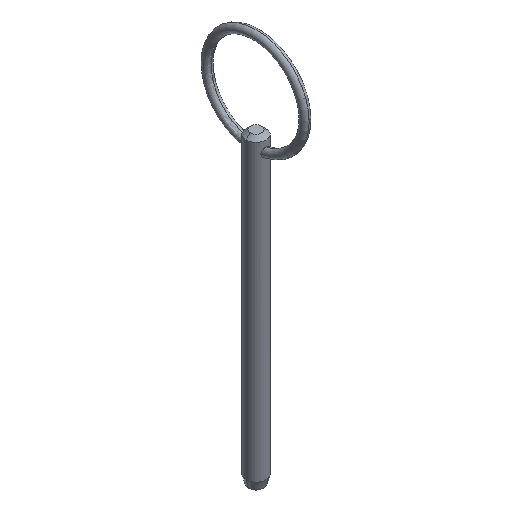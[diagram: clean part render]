
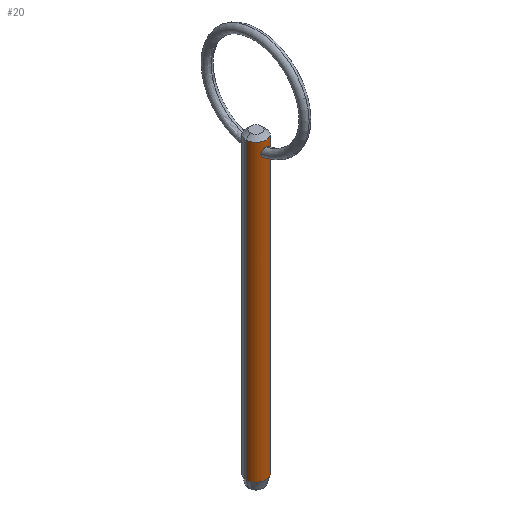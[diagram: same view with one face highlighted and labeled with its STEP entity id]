
A CAD part, isometric view. The second image highlights one B-rep face of the part: STEP entity #20.
In plain terms, the highlighted cylindrical face has radius 2.38 mm (diameter 4.76 mm), a partial arc.
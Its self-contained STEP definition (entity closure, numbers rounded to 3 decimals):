
#20 = ADVANCED_FACE ( 'NONE', ( #467, #393 ), #431, .T. ) ;
#24 = VERTEX_POINT ( 'NONE', #354 ) ;
#27 = CARTESIAN_POINT ( 'NONE',  ( 0.811, -2.24, 64.106 ) ) ;
#31 = VERTEX_POINT ( 'NONE', #111 ) ;
#35 = CARTESIAN_POINT ( 'NONE',  ( 0.996, -2.162, 64.864 ) ) ;
#39 = CARTESIAN_POINT ( 'NONE',  ( 0., 0., 67.24 ) ) ;
#40 = CARTESIAN_POINT ( 'NONE',  ( 2.38, 0., 67.24 ) ) ;
#41 = EDGE_CURVE ( 'NONE', #436, #239, #203, .T. ) ;
#46 = ORIENTED_EDGE ( 'NONE', *, *, #324, .T. ) ;
#47 = ORIENTED_EDGE ( 'NONE', *, *, #50, .T. ) ;
#50 = EDGE_CURVE ( 'NONE', #31, #454, #276, .T. ) ;
#54 = CARTESIAN_POINT ( 'NONE',  ( -2.38, 0., -3.08 ) ) ;
#59 = ORIENTED_EDGE ( 'NONE', *, *, #179, .T. ) ;
#64 = DIRECTION ( 'NONE',  ( -1., 0., 0. ) ) ;
#66 = CIRCLE ( 'NONE', #150, 2.38 ) ;
#73 = DIRECTION ( 'NONE',  ( 0., 0., -1. ) ) ;
#78 = CARTESIAN_POINT ( 'NONE',  ( -0.133, -2.38, 63.725 ) ) ;
#80 = CARTESIAN_POINT ( 'NONE',  ( -0.505, -2.329, 65.626 ) ) ;
#108 = CARTESIAN_POINT ( 'NONE',  ( 0.268, -2.368, 65.737 ) ) ;
#111 = CARTESIAN_POINT ( 'NONE',  ( 0., -2.38, 65.768 ) ) ;
#113 = CARTESIAN_POINT ( 'NONE',  ( 0.865, -2.218, 65.24 ) ) ;
#117 = CARTESIAN_POINT ( 'NONE',  ( -1.004, -2.158, 64.599 ) ) ;
#121 = DIRECTION ( 'NONE',  ( 0., 0., -1. ) ) ;
#122 = AXIS2_PLACEMENT_3D ( 'NONE', #149, #462, #64 ) ;
#138 = CARTESIAN_POINT ( 'NONE',  ( 0.268, -2.368, 63.751 ) ) ;
#145 = CARTESIAN_POINT ( 'NONE',  ( 0.508, -2.328, 65.624 ) ) ;
#148 = CARTESIAN_POINT ( 'NONE',  ( 2.38, 0., -3.08 ) ) ;
#149 = CARTESIAN_POINT ( 'NONE',  ( 0., 0., -3.08 ) ) ;
#150 = AXIS2_PLACEMENT_3D ( 'NONE', #39, #73, #330 ) ;
#162 = CARTESIAN_POINT ( 'NONE',  ( 0., -2.38, 65.768 ) ) ;
#178 = CARTESIAN_POINT ( 'NONE',  ( 0., -2.38, 63.725 ) ) ;
#179 = EDGE_CURVE ( 'NONE', #264, #24, #66, .T. ) ;
#189 = CARTESIAN_POINT ( 'NONE',  ( -0.267, -2.368, 65.737 ) ) ;
#190 = DIRECTION ( 'NONE',  ( 0., 0., -1. ) ) ;
#193 = CARTESIAN_POINT ( 'NONE',  ( -0.885, -2.21, 64.217 ) ) ;
#203 = CIRCLE ( 'NONE', #122, 2.38 ) ;
#213 = CARTESIAN_POINT ( 'NONE',  ( 0.615, -2.301, 65.544 ) ) ;
#217 = CARTESIAN_POINT ( 'NONE',  ( 0.966, -2.176, 64.997 ) ) ;
#224 = CARTESIAN_POINT ( 'NONE',  ( -0.268, -2.368, 63.751 ) ) ;
#226 = EDGE_LOOP ( 'NONE', ( #47, #304 ) ) ;
#236 = DIRECTION ( 'NONE',  ( 0., 0., -1. ) ) ;
#239 = VERTEX_POINT ( 'NONE', #148 ) ;
#251 = ORIENTED_EDGE ( 'NONE', *, *, #331, .F. ) ;
#258 = CARTESIAN_POINT ( 'NONE',  ( 2.38, 0., 63.5 ) ) ;
#259 = CARTESIAN_POINT ( 'NONE',  ( -2.38, 0., 63.5 ) ) ;
#261 = CARTESIAN_POINT ( 'NONE',  ( -0.88, -2.219, 65.26 ) ) ;
#264 = VERTEX_POINT ( 'NONE', #40 ) ;
#274 = LINE ( 'NONE', #258, #327 ) ;
#276 = B_SPLINE_CURVE_WITH_KNOTS ( 'NONE', 3,
 ( #459, #322, #108, #145, #213, #325, #113, #217, #35, #357, #282, #392, #27, #426, #351, #138, #388, #178 ),
 .UNSPECIFIED., .F., .F.,
 ( 4, 2, 2, 2, 2, 2, 2, 2, 4 ),
 ( 0.003, 0.003, 0.003, 0.004, 0.004, 0.005, 0.005, 0.005, 0.006 ),
 .UNSPECIFIED. ) ;
#282 = CARTESIAN_POINT ( 'NONE',  ( 0.981, -2.169, 64.464 ) ) ;
#295 = CARTESIAN_POINT ( 'NONE',  ( -0.811, -2.24, 64.106 ) ) ;
#304 = ORIENTED_EDGE ( 'NONE', *, *, #414, .T. ) ;
#313 = DIRECTION ( 'NONE',  ( -1., 0., 0. ) ) ;
#322 = CARTESIAN_POINT ( 'NONE',  ( 0.134, -2.38, 65.768 ) ) ;
#324 = EDGE_CURVE ( 'NONE', #24, #436, #364, .T. ) ;
#325 = CARTESIAN_POINT ( 'NONE',  ( 0.793, -2.246, 65.352 ) ) ;
#327 = VECTOR ( 'NONE', #190, 1000. ) ;
#330 = DIRECTION ( 'NONE',  ( 1., 0., 0. ) ) ;
#331 = EDGE_CURVE ( 'NONE', #264, #239, #274, .T. ) ;
#335 = CARTESIAN_POINT ( 'NONE',  ( -0.626, -2.298, 63.922 ) ) ;
#337 = CARTESIAN_POINT ( 'NONE',  ( -0.134, -2.38, 65.768 ) ) ;
#346 = AXIS2_PLACEMENT_3D ( 'NONE', #387, #236, #313 ) ;
#351 = CARTESIAN_POINT ( 'NONE',  ( 0.513, -2.327, 63.848 ) ) ;
#354 = CARTESIAN_POINT ( 'NONE',  ( -2.38, 0., 67.24 ) ) ;
#357 = CARTESIAN_POINT ( 'NONE',  ( 1.003, -2.158, 64.599 ) ) ;
#364 = LINE ( 'NONE', #259, #421 ) ;
#365 = CARTESIAN_POINT ( 'NONE',  ( -0.982, -2.169, 64.465 ) ) ;
#368 = CARTESIAN_POINT ( 'NONE',  ( -0.991, -2.164, 65.001 ) ) ;
#383 = B_SPLINE_CURVE_WITH_KNOTS ( 'NONE', 3,
 ( #435, #78, #224, #438, #335, #295, #193, #365, #117, #368, #261, #401, #80, #189, #337, #162 ),
 .UNSPECIFIED., .F., .F.,
 ( 4, 2, 2, 2, 2, 2, 2, 4 ),
 ( 0.006, 0.006, 0.007, 0.007, 0.007, 0.008, 0.009, 0.009 ),
 .UNSPECIFIED. ) ;
#387 = CARTESIAN_POINT ( 'NONE',  ( 0., 0., 63.5 ) ) ;
#388 = CARTESIAN_POINT ( 'NONE',  ( 0.133, -2.38, 63.725 ) ) ;
#392 = CARTESIAN_POINT ( 'NONE',  ( 0.885, -2.21, 64.217 ) ) ;
#393 = FACE_BOUND ( 'NONE', #226, .T. ) ;
#394 = EDGE_LOOP ( 'NONE', ( #251, #59, #46, #429 ) ) ;
#401 = CARTESIAN_POINT ( 'NONE',  ( -0.613, -2.302, 65.546 ) ) ;
#414 = EDGE_CURVE ( 'NONE', #454, #31, #383, .T. ) ;
#415 = CARTESIAN_POINT ( 'NONE',  ( 0., -2.38, 63.725 ) ) ;
#421 = VECTOR ( 'NONE', #121, 1000. ) ;
#426 = CARTESIAN_POINT ( 'NONE',  ( 0.625, -2.299, 63.921 ) ) ;
#429 = ORIENTED_EDGE ( 'NONE', *, *, #41, .T. ) ;
#431 = CYLINDRICAL_SURFACE ( 'NONE', #346, 2.38 ) ;
#435 = CARTESIAN_POINT ( 'NONE',  ( 0., -2.38, 63.725 ) ) ;
#436 = VERTEX_POINT ( 'NONE', #54 ) ;
#438 = CARTESIAN_POINT ( 'NONE',  ( -0.514, -2.327, 63.849 ) ) ;
#454 = VERTEX_POINT ( 'NONE', #415 ) ;
#459 = CARTESIAN_POINT ( 'NONE',  ( 0., -2.38, 65.768 ) ) ;
#462 = DIRECTION ( 'NONE',  ( 0., 0., 1. ) ) ;
#467 = FACE_OUTER_BOUND ( 'NONE', #394, .T. ) ;
